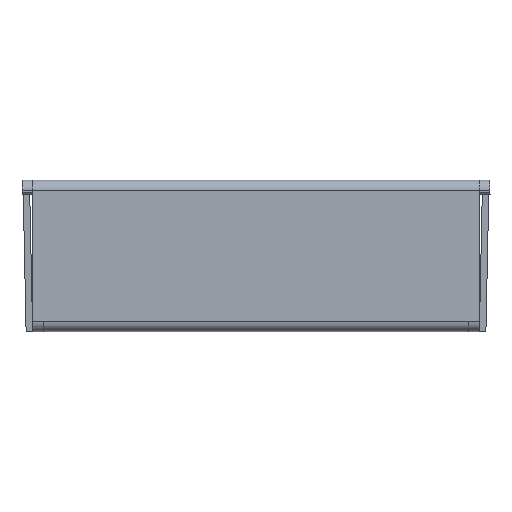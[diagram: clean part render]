
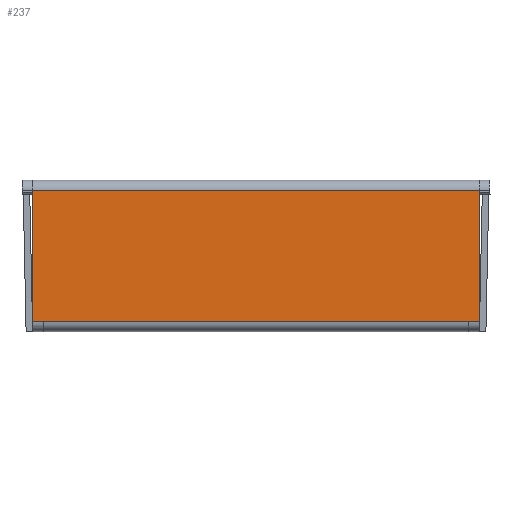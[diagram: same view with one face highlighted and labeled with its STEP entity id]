
A CAD part, top view. The second image highlights one B-rep face of the part: STEP entity #237.
In plain terms, the highlighted planar face has unit normal (0, 0, 1).
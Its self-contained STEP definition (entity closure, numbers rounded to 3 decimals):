
#237=ADVANCED_FACE('',(#325),#1274,.T.);
#325=FACE_OUTER_BOUND('',#413,.T.);
#413=EDGE_LOOP('',(#735,#736,#737,#738));
#735=ORIENTED_EDGE('',*,*,#969,.F.);
#736=ORIENTED_EDGE('',*,*,#966,.F.);
#737=ORIENTED_EDGE('',*,*,#963,.F.);
#738=ORIENTED_EDGE('',*,*,#959,.F.);
#959=EDGE_CURVE('',#1176,#1177,#1067,.T.);
#963=EDGE_CURVE('',#1177,#1180,#1071,.T.);
#966=EDGE_CURVE('',#1180,#1182,#1074,.T.);
#969=EDGE_CURVE('',#1182,#1176,#1077,.T.);
#1067=B_SPLINE_CURVE_WITH_KNOTS('',1,(#2097,#2098),.UNSPECIFIED.,.F.,.F.,
(2,2),(-2828.,-2508.),.UNSPECIFIED.);
#1071=B_SPLINE_CURVE_WITH_KNOTS('',1,(#2105,#2106),.UNSPECIFIED.,.F.,.F.,
(2,2),(-2508.,-1414.),.UNSPECIFIED.);
#1074=B_SPLINE_CURVE_WITH_KNOTS('',1,(#2111,#2112),.UNSPECIFIED.,.F.,.F.,
(2,2),(-1414.,-1094.),.UNSPECIFIED.);
#1077=B_SPLINE_CURVE_WITH_KNOTS('',1,(#2117,#2118),.UNSPECIFIED.,.F.,.F.,
(2,2),(-1094.,0.),.UNSPECIFIED.);
#1176=VERTEX_POINT('',#2089);
#1177=VERTEX_POINT('',#2090);
#1180=VERTEX_POINT('',#2093);
#1182=VERTEX_POINT('',#2095);
#1274=PLANE('',#1446);
#1446=AXIS2_PLACEMENT_3D('',#2087,#1538,$);
#1538=DIRECTION('',(0.,0.,1.));
#2087=CARTESIAN_POINT('',(547.,-160.,460.));
#2089=CARTESIAN_POINT('',(-547.,-160.,460.));
#2090=CARTESIAN_POINT('',(-547.,160.,460.));
#2093=CARTESIAN_POINT('',(547.,160.,460.));
#2095=CARTESIAN_POINT('',(547.,-160.,460.));
#2097=CARTESIAN_POINT('',(-547.,-160.,460.));
#2098=CARTESIAN_POINT('',(-547.,160.,460.));
#2105=CARTESIAN_POINT('',(-547.,160.,460.));
#2106=CARTESIAN_POINT('',(547.,160.,460.));
#2111=CARTESIAN_POINT('',(547.,160.,460.));
#2112=CARTESIAN_POINT('',(547.,-160.,460.));
#2117=CARTESIAN_POINT('',(547.,-160.,460.));
#2118=CARTESIAN_POINT('',(-547.,-160.,460.));
